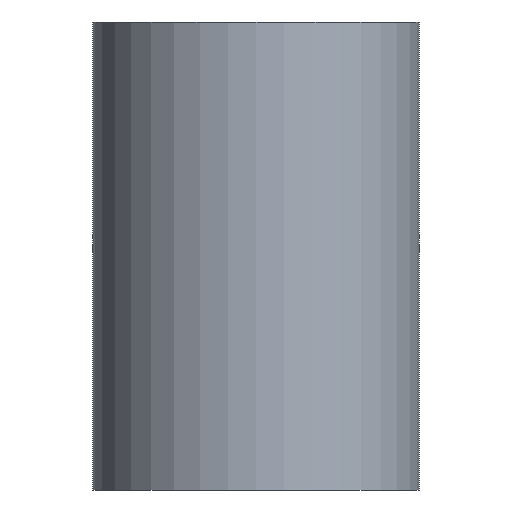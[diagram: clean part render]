
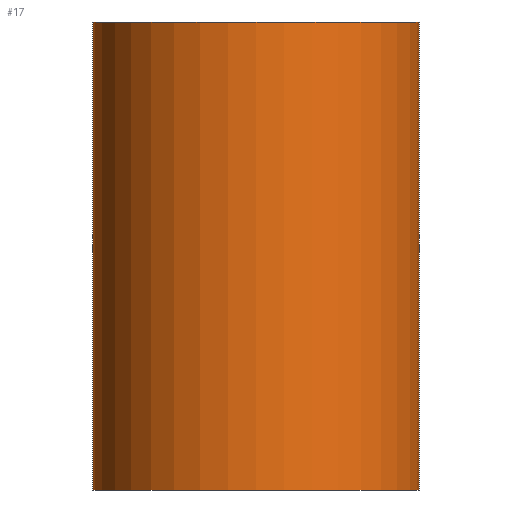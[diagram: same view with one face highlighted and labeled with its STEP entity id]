
A CAD part, front view. The second image highlights one B-rep face of the part: STEP entity #17.
In plain terms, the highlighted cylindrical face has radius 37 mm (diameter 74 mm), a full revolution.
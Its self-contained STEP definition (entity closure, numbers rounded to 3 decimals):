
#17 = ADVANCED_FACE('',(#18),#32,.T.);
#18 = FACE_BOUND('',#19,.F.);
#19 = EDGE_LOOP('',(#20,#50,#77,#78));
#20 = ORIENTED_EDGE('',*,*,#21,.T.);
#21 = EDGE_CURVE('',#22,#24,#26,.T.);
#22 = VERTEX_POINT('',#23);
#23 = CARTESIAN_POINT('',(37.,0.,-53.));
#24 = VERTEX_POINT('',#25);
#25 = CARTESIAN_POINT('',(37.,0.,53.));
#26 = SEAM_CURVE('',#27,(#31,#43),.PCURVE_S1.);
#27 = LINE('',#28,#29);
#28 = CARTESIAN_POINT('',(37.,0.,-53.));
#29 = VECTOR('',#30,1.);
#30 = DIRECTION('',(0.,0.,1.));
#31 = PCURVE('',#32,#37);
#32 = CYLINDRICAL_SURFACE('',#33,37.);
#33 = AXIS2_PLACEMENT_3D('',#34,#35,#36);
#34 = CARTESIAN_POINT('',(0.,0.,-53.));
#35 = DIRECTION('',(-0.,-0.,-1.));
#36 = DIRECTION('',(1.,0.,0.));
#37 = DEFINITIONAL_REPRESENTATION('',(#38),#42);
#38 = LINE('',#39,#40);
#39 = CARTESIAN_POINT('',(-0.,0.));
#40 = VECTOR('',#41,1.);
#41 = DIRECTION('',(-0.,-1.));
#42 = ( GEOMETRIC_REPRESENTATION_CONTEXT(2) 
PARAMETRIC_REPRESENTATION_CONTEXT() REPRESENTATION_CONTEXT('2D SPACE',''
  ) );
#43 = PCURVE('',#32,#44);
#44 = DEFINITIONAL_REPRESENTATION('',(#45),#49);
#45 = LINE('',#46,#47);
#46 = CARTESIAN_POINT('',(-6.283,0.));
#47 = VECTOR('',#48,1.);
#48 = DIRECTION('',(-0.,-1.));
#49 = ( GEOMETRIC_REPRESENTATION_CONTEXT(2) 
PARAMETRIC_REPRESENTATION_CONTEXT() REPRESENTATION_CONTEXT('2D SPACE',''
  ) );
#50 = ORIENTED_EDGE('',*,*,#51,.T.);
#51 = EDGE_CURVE('',#24,#24,#52,.T.);
#52 = SURFACE_CURVE('',#53,(#58,#65),.PCURVE_S1.);
#53 = CIRCLE('',#54,37.);
#54 = AXIS2_PLACEMENT_3D('',#55,#56,#57);
#55 = CARTESIAN_POINT('',(0.,0.,53.));
#56 = DIRECTION('',(0.,0.,1.));
#57 = DIRECTION('',(1.,0.,0.));
#58 = PCURVE('',#32,#59);
#59 = DEFINITIONAL_REPRESENTATION('',(#60),#64);
#60 = LINE('',#61,#62);
#61 = CARTESIAN_POINT('',(-0.,-106.));
#62 = VECTOR('',#63,1.);
#63 = DIRECTION('',(-1.,0.));
#64 = ( GEOMETRIC_REPRESENTATION_CONTEXT(2) 
PARAMETRIC_REPRESENTATION_CONTEXT() REPRESENTATION_CONTEXT('2D SPACE',''
  ) );
#65 = PCURVE('',#66,#71);
#66 = PLANE('',#67);
#67 = AXIS2_PLACEMENT_3D('',#68,#69,#70);
#68 = CARTESIAN_POINT('',(0.,0.,53.));
#69 = DIRECTION('',(0.,0.,1.));
#70 = DIRECTION('',(1.,0.,-0.));
#71 = DEFINITIONAL_REPRESENTATION('',(#72),#76);
#72 = CIRCLE('',#73,37.);
#73 = AXIS2_PLACEMENT_2D('',#74,#75);
#74 = CARTESIAN_POINT('',(0.,0.));
#75 = DIRECTION('',(1.,0.));
#76 = ( GEOMETRIC_REPRESENTATION_CONTEXT(2) 
PARAMETRIC_REPRESENTATION_CONTEXT() REPRESENTATION_CONTEXT('2D SPACE',''
  ) );
#77 = ORIENTED_EDGE('',*,*,#21,.F.);
#78 = ORIENTED_EDGE('',*,*,#79,.F.);
#79 = EDGE_CURVE('',#22,#22,#80,.T.);
#80 = SURFACE_CURVE('',#81,(#86,#93),.PCURVE_S1.);
#81 = CIRCLE('',#82,37.);
#82 = AXIS2_PLACEMENT_3D('',#83,#84,#85);
#83 = CARTESIAN_POINT('',(0.,0.,-53.));
#84 = DIRECTION('',(0.,0.,1.));
#85 = DIRECTION('',(1.,0.,0.));
#86 = PCURVE('',#32,#87);
#87 = DEFINITIONAL_REPRESENTATION('',(#88),#92);
#88 = LINE('',#89,#90);
#89 = CARTESIAN_POINT('',(-0.,0.));
#90 = VECTOR('',#91,1.);
#91 = DIRECTION('',(-1.,0.));
#92 = ( GEOMETRIC_REPRESENTATION_CONTEXT(2) 
PARAMETRIC_REPRESENTATION_CONTEXT() REPRESENTATION_CONTEXT('2D SPACE',''
  ) );
#93 = PCURVE('',#94,#99);
#94 = PLANE('',#95);
#95 = AXIS2_PLACEMENT_3D('',#96,#97,#98);
#96 = CARTESIAN_POINT('',(0.,0.,-53.));
#97 = DIRECTION('',(0.,0.,1.));
#98 = DIRECTION('',(1.,0.,-0.));
#99 = DEFINITIONAL_REPRESENTATION('',(#100),#104);
#100 = CIRCLE('',#101,37.);
#101 = AXIS2_PLACEMENT_2D('',#102,#103);
#102 = CARTESIAN_POINT('',(0.,0.));
#103 = DIRECTION('',(1.,0.));
#104 = ( GEOMETRIC_REPRESENTATION_CONTEXT(2) 
PARAMETRIC_REPRESENTATION_CONTEXT() REPRESENTATION_CONTEXT('2D SPACE',''
  ) );
